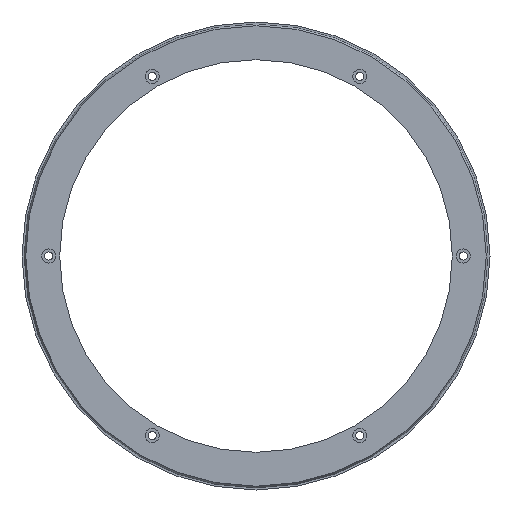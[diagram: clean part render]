
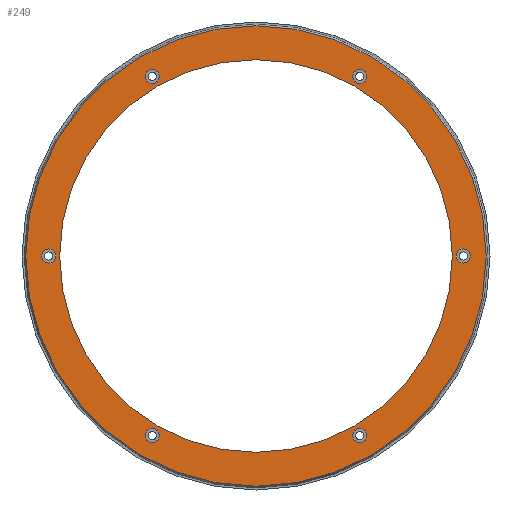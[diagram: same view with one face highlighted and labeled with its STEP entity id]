
A CAD part, left-side view. The second image highlights one B-rep face of the part: STEP entity #249.
In plain terms, the highlighted planar face has unit normal (-1, 0, 0).
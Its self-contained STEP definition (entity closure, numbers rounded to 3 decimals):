
#141=CARTESIAN_POINT('',(-13.36,125.484,0.));
#142=VERTEX_POINT('',#141);
#143=CARTESIAN_POINT('',(-13.36,0.,0.0));
#144=DIRECTION('',(1.0,0.0,0.0));
#145=DIRECTION('',(0.0,-1.0,0.0));
#146=AXIS2_PLACEMENT_3D('',#143,#144,#145);
#147=CIRCLE('',#146,125.484);
#148=EDGE_CURVE('',#142,#142,#147,.T.);
#164=CARTESIAN_POINT('',(-13.36,116.675,0.0));
#165=DIRECTION('',(-1.0,0.0,0.0));
#166=DIRECTION('',(0.0,0.0,1.0));
#167=AXIS2_PLACEMENT_3D('',#164,#165,#166);
#168=PLANE('',#167);
#169=ORIENTED_EDGE('',*,*,#148,.F.);
#170=EDGE_LOOP('',(#169));
#171=FACE_OUTER_BOUND('',#170,.T.);
#172=CARTESIAN_POINT('',(-13.36,107.,0.0));
#173=VERTEX_POINT('',#172);
#174=CARTESIAN_POINT('',(-13.36,0.,0.0));
#175=DIRECTION('',(1.0,0.0,0.0));
#176=DIRECTION('',(0.0,1.0,0.0));
#177=AXIS2_PLACEMENT_3D('',#174,#175,#176);
#178=CIRCLE('',#177,107.);
#179=EDGE_CURVE('',#173,#173,#178,.T.);
#180=ORIENTED_EDGE('',*,*,#179,.T.);
#181=EDGE_LOOP('',(#180));
#182=FACE_BOUND('',#181,.T.);
#183=CARTESIAN_POINT('',(-13.36,113.0,3.85));
#184=VERTEX_POINT('',#183);
#185=CARTESIAN_POINT('',(-13.36,113.0,0.0));
#186=DIRECTION('',(1.0,0.0,0.0));
#187=DIRECTION('',(0.0,0.0,1.0));
#188=AXIS2_PLACEMENT_3D('',#185,#186,#187);
#189=CIRCLE('',#188,3.85);
#190=EDGE_CURVE('',#184,#184,#189,.T.);
#191=ORIENTED_EDGE('',*,*,#190,.T.);
#192=EDGE_LOOP('',(#191));
#193=FACE_BOUND('',#192,.T.);
#194=CARTESIAN_POINT('',(-13.36,59.834,-95.936));
#195=VERTEX_POINT('',#194);
#196=CARTESIAN_POINT('',(-13.36,56.5,-97.861));
#197=DIRECTION('',(1.0,0.,0.));
#198=DIRECTION('',(0.,0.866,0.5));
#199=AXIS2_PLACEMENT_3D('',#196,#197,#198);
#200=CIRCLE('',#199,3.85);
#201=EDGE_CURVE('',#195,#195,#200,.T.);
#202=ORIENTED_EDGE('',*,*,#201,.T.);
#203=EDGE_LOOP('',(#202));
#204=FACE_BOUND('',#203,.T.);
#205=CARTESIAN_POINT('',(-13.36,53.166,99.786));
#206=VERTEX_POINT('',#205);
#207=CARTESIAN_POINT('',(-13.36,56.5,97.861));
#208=DIRECTION('',(1.0,0.,0.));
#209=DIRECTION('',(0.,-0.866,0.5));
#210=AXIS2_PLACEMENT_3D('',#207,#208,#209);
#211=CIRCLE('',#210,3.85);
#212=EDGE_CURVE('',#206,#206,#211,.T.);
#213=ORIENTED_EDGE('',*,*,#212,.T.);
#214=EDGE_LOOP('',(#213));
#215=FACE_BOUND('',#214,.T.);
#216=CARTESIAN_POINT('',(-13.36,-59.834,95.936));
#217=VERTEX_POINT('',#216);
#218=CARTESIAN_POINT('',(-13.36,-56.5,97.861));
#219=DIRECTION('',(1.,0.,0.));
#220=DIRECTION('',(0.,-0.866,-0.5));
#221=AXIS2_PLACEMENT_3D('',#218,#219,#220);
#222=CIRCLE('',#221,3.85);
#223=EDGE_CURVE('',#217,#217,#222,.T.);
#224=ORIENTED_EDGE('',*,*,#223,.T.);
#225=EDGE_LOOP('',(#224));
#226=FACE_BOUND('',#225,.T.);
#227=CARTESIAN_POINT('',(-13.36,-113.0,-3.85));
#228=VERTEX_POINT('',#227);
#229=CARTESIAN_POINT('',(-13.36,-113.0,0.));
#230=DIRECTION('',(1.0,0.0,0.0));
#231=DIRECTION('',(0.0,0.0,-1.0));
#232=AXIS2_PLACEMENT_3D('',#229,#230,#231);
#233=CIRCLE('',#232,3.85);
#234=EDGE_CURVE('',#228,#228,#233,.T.);
#235=ORIENTED_EDGE('',*,*,#234,.T.);
#236=EDGE_LOOP('',(#235));
#237=FACE_BOUND('',#236,.T.);
#238=CARTESIAN_POINT('',(-13.36,-53.166,-99.786));
#239=VERTEX_POINT('',#238);
#240=CARTESIAN_POINT('',(-13.36,-56.5,-97.861));
#241=DIRECTION('',(1.0,0.,0.));
#242=DIRECTION('',(0.,0.866,-0.5));
#243=AXIS2_PLACEMENT_3D('',#240,#241,#242);
#244=CIRCLE('',#243,3.85);
#245=EDGE_CURVE('',#239,#239,#244,.T.);
#246=ORIENTED_EDGE('',*,*,#245,.T.);
#247=EDGE_LOOP('',(#246));
#248=FACE_BOUND('',#247,.T.);
#249=ADVANCED_FACE('',(#171,#182,#193,#204,#215,#226,#237,#248),#168,.T.);
